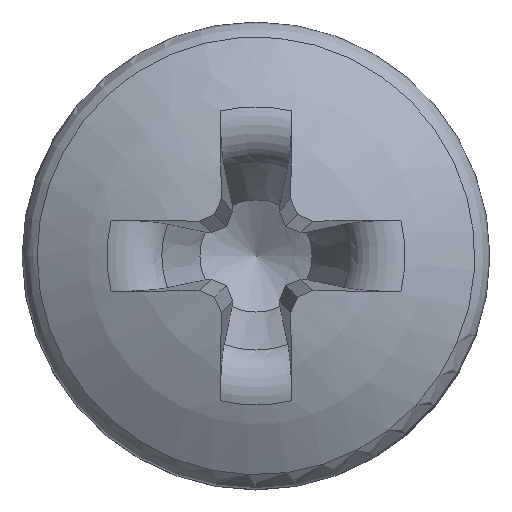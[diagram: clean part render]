
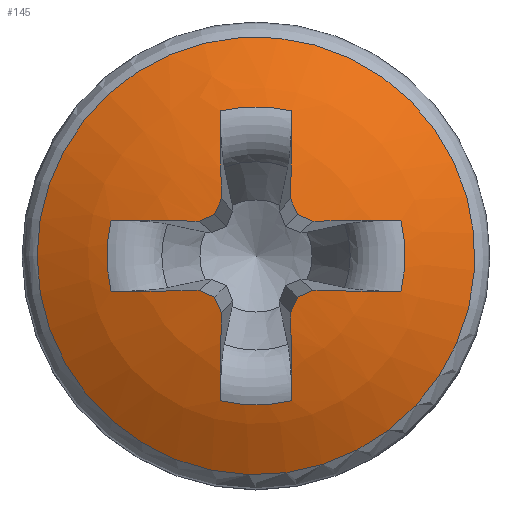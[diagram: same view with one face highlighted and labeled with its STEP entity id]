
A CAD part, top view. The second image highlights one B-rep face of the part: STEP entity #145.
In plain terms, the highlighted spherical face has radius 4.789 mm.
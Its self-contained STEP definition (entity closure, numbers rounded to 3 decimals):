
#116=SPHERICAL_SURFACE('',#881,4.789);
#127=FACE_BOUND('',#246,.T.);
#128=FACE_BOUND('',#247,.T.);
#145=ADVANCED_FACE('',(#127,#128),#116,.T.);
#246=EDGE_LOOP('',(#355));
#247=EDGE_LOOP('',(#356,#357,#358,#359,#360,#361,#362,#363,#364,#365,#366,
#367,#368,#369,#370,#371,#372,#373,#374,#375));
#305=CIRCLE('',#860,2.48);
#306=CIRCLE('',#861,4.789);
#307=CIRCLE('',#862,1.691);
#308=CIRCLE('',#863,4.789);
#309=CIRCLE('',#864,4.789);
#310=CIRCLE('',#865,4.789);
#311=CIRCLE('',#866,4.789);
#312=CIRCLE('',#867,1.691);
#313=CIRCLE('',#868,4.789);
#314=CIRCLE('',#869,4.789);
#315=CIRCLE('',#870,4.789);
#316=CIRCLE('',#871,4.789);
#317=CIRCLE('',#872,1.691);
#318=CIRCLE('',#873,4.789);
#319=CIRCLE('',#874,4.789);
#320=CIRCLE('',#875,4.789);
#321=CIRCLE('',#876,4.789);
#322=CIRCLE('',#877,1.691);
#323=CIRCLE('',#878,4.789);
#324=CIRCLE('',#879,4.789);
#325=CIRCLE('',#880,4.789);
#355=ORIENTED_EDGE('',*,*,#683,.T.);
#356=ORIENTED_EDGE('',*,*,#684,.F.);
#357=ORIENTED_EDGE('',*,*,#685,.T.);
#358=ORIENTED_EDGE('',*,*,#686,.F.);
#359=ORIENTED_EDGE('',*,*,#687,.F.);
#360=ORIENTED_EDGE('',*,*,#688,.F.);
#361=ORIENTED_EDGE('',*,*,#689,.F.);
#362=ORIENTED_EDGE('',*,*,#690,.T.);
#363=ORIENTED_EDGE('',*,*,#691,.F.);
#364=ORIENTED_EDGE('',*,*,#692,.F.);
#365=ORIENTED_EDGE('',*,*,#693,.F.);
#366=ORIENTED_EDGE('',*,*,#694,.F.);
#367=ORIENTED_EDGE('',*,*,#695,.T.);
#368=ORIENTED_EDGE('',*,*,#696,.F.);
#369=ORIENTED_EDGE('',*,*,#697,.F.);
#370=ORIENTED_EDGE('',*,*,#698,.F.);
#371=ORIENTED_EDGE('',*,*,#699,.F.);
#372=ORIENTED_EDGE('',*,*,#700,.T.);
#373=ORIENTED_EDGE('',*,*,#701,.F.);
#374=ORIENTED_EDGE('',*,*,#702,.F.);
#375=ORIENTED_EDGE('',*,*,#703,.F.);
#599=VERTEX_POINT('',#1377);
#600=VERTEX_POINT('',#1379);
#601=VERTEX_POINT('',#1380);
#602=VERTEX_POINT('',#1382);
#603=VERTEX_POINT('',#1384);
#604=VERTEX_POINT('',#1386);
#605=VERTEX_POINT('',#1388);
#606=VERTEX_POINT('',#1390);
#607=VERTEX_POINT('',#1392);
#608=VERTEX_POINT('',#1394);
#609=VERTEX_POINT('',#1396);
#610=VERTEX_POINT('',#1398);
#611=VERTEX_POINT('',#1400);
#612=VERTEX_POINT('',#1402);
#613=VERTEX_POINT('',#1404);
#614=VERTEX_POINT('',#1406);
#615=VERTEX_POINT('',#1408);
#616=VERTEX_POINT('',#1410);
#617=VERTEX_POINT('',#1412);
#618=VERTEX_POINT('',#1414);
#619=VERTEX_POINT('',#1416);
#683=EDGE_CURVE('',#599,#599,#305,.T.);
#684=EDGE_CURVE('',#600,#601,#306,.T.);
#685=EDGE_CURVE('',#600,#602,#307,.T.);
#686=EDGE_CURVE('',#603,#602,#308,.T.);
#687=EDGE_CURVE('',#604,#603,#309,.T.);
#688=EDGE_CURVE('',#605,#604,#310,.T.);
#689=EDGE_CURVE('',#606,#605,#311,.T.);
#690=EDGE_CURVE('',#606,#607,#312,.T.);
#691=EDGE_CURVE('',#608,#607,#313,.T.);
#692=EDGE_CURVE('',#609,#608,#314,.T.);
#693=EDGE_CURVE('',#610,#609,#315,.T.);
#694=EDGE_CURVE('',#611,#610,#316,.T.);
#695=EDGE_CURVE('',#611,#612,#317,.T.);
#696=EDGE_CURVE('',#613,#612,#318,.T.);
#697=EDGE_CURVE('',#614,#613,#319,.T.);
#698=EDGE_CURVE('',#615,#614,#320,.T.);
#699=EDGE_CURVE('',#616,#615,#321,.T.);
#700=EDGE_CURVE('',#616,#617,#322,.T.);
#701=EDGE_CURVE('',#618,#617,#323,.T.);
#702=EDGE_CURVE('',#619,#618,#324,.T.);
#703=EDGE_CURVE('',#601,#619,#325,.T.);
#860=AXIS2_PLACEMENT_3D('',#1376,#943,#944);
#861=AXIS2_PLACEMENT_3D('',#1378,#945,#946);
#862=AXIS2_PLACEMENT_3D('',#1381,#947,#948);
#863=AXIS2_PLACEMENT_3D('',#1383,#949,#950);
#864=AXIS2_PLACEMENT_3D('',#1385,#951,#952);
#865=AXIS2_PLACEMENT_3D('',#1387,#953,#954);
#866=AXIS2_PLACEMENT_3D('',#1389,#955,#956);
#867=AXIS2_PLACEMENT_3D('',#1391,#957,#958);
#868=AXIS2_PLACEMENT_3D('',#1393,#959,#960);
#869=AXIS2_PLACEMENT_3D('',#1395,#961,#962);
#870=AXIS2_PLACEMENT_3D('',#1397,#963,#964);
#871=AXIS2_PLACEMENT_3D('',#1399,#965,#966);
#872=AXIS2_PLACEMENT_3D('',#1401,#967,#968);
#873=AXIS2_PLACEMENT_3D('',#1403,#969,#970);
#874=AXIS2_PLACEMENT_3D('',#1405,#971,#972);
#875=AXIS2_PLACEMENT_3D('',#1407,#973,#974);
#876=AXIS2_PLACEMENT_3D('',#1409,#975,#976);
#877=AXIS2_PLACEMENT_3D('',#1411,#977,#978);
#878=AXIS2_PLACEMENT_3D('',#1413,#979,#980);
#879=AXIS2_PLACEMENT_3D('',#1415,#981,#982);
#880=AXIS2_PLACEMENT_3D('',#1417,#983,#984);
#881=AXIS2_PLACEMENT_3D('',#1418,#985,#986);
#943=DIRECTION('',(0.,0.,1.));
#944=DIRECTION('',(-1.,0.,0.));
#945=DIRECTION('',(-0.035,0.996,0.087));
#946=DIRECTION('',(0.,-0.087,0.996));
#947=DIRECTION('',(0.,0.,-1.));
#948=DIRECTION('',(-1.,0.,0.));
#949=DIRECTION('',(-0.035,-0.996,0.087));
#950=DIRECTION('',(0.,-0.087,-0.996));
#951=DIRECTION('',(0.404,-0.907,0.122));
#952=DIRECTION('',(0.914,0.407,0.));
#953=DIRECTION('',(0.907,-0.404,0.122));
#954=DIRECTION('',(0.407,0.914,0.));
#955=DIRECTION('',(0.996,0.035,0.087));
#956=DIRECTION('',(0.087,0.,-0.996));
#957=DIRECTION('',(0.,0.,-1.));
#958=DIRECTION('',(-1.,0.,0.));
#959=DIRECTION('',(-0.996,0.035,0.087));
#960=DIRECTION('',(0.087,0.,0.996));
#961=DIRECTION('',(-0.907,-0.404,0.122));
#962=DIRECTION('',(0.407,-0.914,0.));
#963=DIRECTION('',(-0.404,-0.907,0.122));
#964=DIRECTION('',(0.914,-0.407,0.));
#965=DIRECTION('',(0.035,-0.996,0.087));
#966=DIRECTION('',(0.,-0.087,-0.996));
#967=DIRECTION('',(0.,0.,-1.));
#968=DIRECTION('',(-1.,0.,0.));
#969=DIRECTION('',(0.035,0.996,0.087));
#970=DIRECTION('',(0.,-0.087,0.996));
#971=DIRECTION('',(-0.404,0.907,0.122));
#972=DIRECTION('',(-0.914,-0.407,0.));
#973=DIRECTION('',(-0.907,0.404,0.122));
#974=DIRECTION('',(-0.407,-0.914,0.));
#975=DIRECTION('',(-0.996,-0.035,0.087));
#976=DIRECTION('',(0.087,0.,0.996));
#977=DIRECTION('',(0.,0.,-1.));
#978=DIRECTION('',(-1.,0.,0.));
#979=DIRECTION('',(0.996,-0.035,0.087));
#980=DIRECTION('',(0.087,0.,-0.996));
#981=DIRECTION('',(0.907,0.404,0.122));
#982=DIRECTION('',(-0.407,0.914,0.));
#983=DIRECTION('',(0.404,0.907,0.122));
#984=DIRECTION('',(-0.914,0.407,0.));
#985=DIRECTION('',(0.,0.,1.));
#986=DIRECTION('',(0.,1.,0.));
#1376=CARTESIAN_POINT('',(0.,0.,1.308));
#1377=CARTESIAN_POINT('',(-2.48,0.,1.308));
#1378=CARTESIAN_POINT('',(-0.002,0.045,-2.785));
#1379=CARTESIAN_POINT('',(-1.642,-0.405,1.691));
#1380=CARTESIAN_POINT('',(-0.644,-0.392,1.94));
#1381=CARTESIAN_POINT('',(0.,0.,1.691));
#1382=CARTESIAN_POINT('',(-1.642,0.405,1.691));
#1383=CARTESIAN_POINT('',(-0.002,-0.045,-2.785));
#1384=CARTESIAN_POINT('',(-0.644,0.392,1.94));
#1385=CARTESIAN_POINT('',(-0.016,0.035,-2.794));
#1386=CARTESIAN_POINT('',(-0.471,0.471,1.954));
#1387=CARTESIAN_POINT('',(-0.035,0.016,-2.794));
#1388=CARTESIAN_POINT('',(-0.392,0.644,1.94));
#1389=CARTESIAN_POINT('',(0.045,0.002,-2.785));
#1390=CARTESIAN_POINT('',(-0.405,1.642,1.691));
#1391=CARTESIAN_POINT('',(0.,0.,1.691));
#1392=CARTESIAN_POINT('',(0.405,1.642,1.691));
#1393=CARTESIAN_POINT('',(-0.045,0.002,-2.785));
#1394=CARTESIAN_POINT('',(0.392,0.644,1.94));
#1395=CARTESIAN_POINT('',(0.035,0.016,-2.794));
#1396=CARTESIAN_POINT('',(0.471,0.471,1.954));
#1397=CARTESIAN_POINT('',(0.016,0.035,-2.794));
#1398=CARTESIAN_POINT('',(0.644,0.392,1.94));
#1399=CARTESIAN_POINT('',(0.002,-0.045,-2.785));
#1400=CARTESIAN_POINT('',(1.642,0.405,1.691));
#1401=CARTESIAN_POINT('',(0.,0.,1.691));
#1402=CARTESIAN_POINT('',(1.642,-0.405,1.691));
#1403=CARTESIAN_POINT('',(0.002,0.045,-2.785));
#1404=CARTESIAN_POINT('',(0.644,-0.392,1.94));
#1405=CARTESIAN_POINT('',(0.016,-0.035,-2.794));
#1406=CARTESIAN_POINT('',(0.471,-0.471,1.954));
#1407=CARTESIAN_POINT('',(0.035,-0.016,-2.794));
#1408=CARTESIAN_POINT('',(0.392,-0.644,1.94));
#1409=CARTESIAN_POINT('',(-0.045,-0.002,-2.785));
#1410=CARTESIAN_POINT('',(0.405,-1.642,1.691));
#1411=CARTESIAN_POINT('',(0.,0.,1.691));
#1412=CARTESIAN_POINT('',(-0.405,-1.642,1.691));
#1413=CARTESIAN_POINT('',(0.045,-0.002,-2.785));
#1414=CARTESIAN_POINT('',(-0.392,-0.644,1.94));
#1415=CARTESIAN_POINT('',(-0.035,-0.016,-2.794));
#1416=CARTESIAN_POINT('',(-0.471,-0.471,1.954));
#1417=CARTESIAN_POINT('',(-0.016,-0.035,-2.794));
#1418=CARTESIAN_POINT('',(0.,0.,-2.789));
